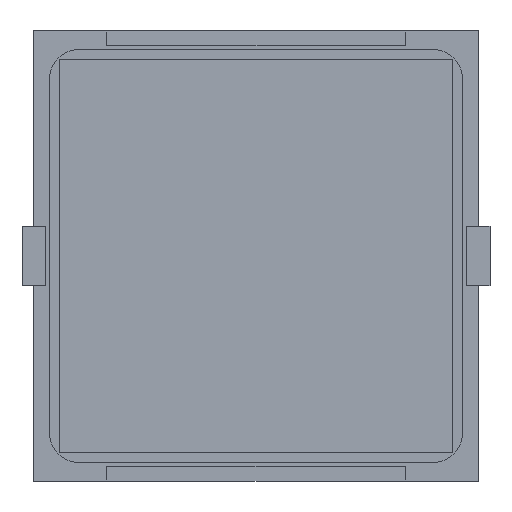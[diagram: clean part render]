
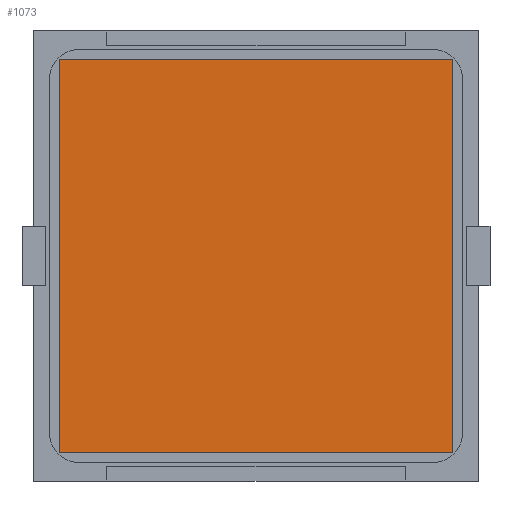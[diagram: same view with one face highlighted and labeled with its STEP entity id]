
A CAD part, front view. The second image highlights one B-rep face of the part: STEP entity #1073.
In plain terms, the highlighted planar face has unit normal (0, -1, 0).
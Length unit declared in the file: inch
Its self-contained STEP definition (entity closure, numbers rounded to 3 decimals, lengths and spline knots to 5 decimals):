
#323 = DIRECTION ( 'NONE',  ( 0., 0., -1. ) ) ;
#356 = PLANE ( 'NONE',  #7579 ) ;
#1073 = ADVANCED_FACE ( 'NONE', ( #10123 ), #356, .F. ) ;
#1463 = DIRECTION ( 'NONE',  ( 0., 0., 1. ) ) ;
#2272 = VECTOR ( 'NONE', #1463, 39.37008 ) ;
#2900 = DIRECTION ( 'NONE',  ( 0., 0., 1. ) ) ;
#3119 = EDGE_CURVE ( 'NONE', #3161, #4794, #10197, .T. ) ;
#3161 = VERTEX_POINT ( 'NONE', #5351 ) ;
#3660 = EDGE_CURVE ( 'NONE', #6611, #6446, #6421, .T. ) ;
#3728 = ORIENTED_EDGE ( 'NONE', *, *, #5587, .F. ) ;
#3869 = DIRECTION ( 'NONE',  ( 1., 0., 0. ) ) ;
#4452 = CARTESIAN_POINT ( 'NONE',  ( -0.64961, -0.005, -0.64961 ) ) ;
#4611 = DIRECTION ( 'NONE',  ( -1., 0., 0. ) ) ;
#4794 = VERTEX_POINT ( 'NONE', #9662 ) ;
#4965 = VECTOR ( 'NONE', #3869, 39.37008 ) ;
#5309 = LINE ( 'NONE', #4452, #9690 ) ;
#5351 = CARTESIAN_POINT ( 'NONE',  ( 0.64961, -0.005, 0.64961 ) ) ;
#5559 = EDGE_LOOP ( 'NONE', ( #8057, #3728, #10334, #8972 ) ) ;
#5587 = EDGE_CURVE ( 'NONE', #4794, #6611, #5309, .T. ) ;
#6065 = DIRECTION ( 'NONE',  ( 0., 1., 0. ) ) ;
#6421 = LINE ( 'NONE', #8119, #2272 ) ;
#6446 = VERTEX_POINT ( 'NONE', #9026 ) ;
#6611 = VERTEX_POINT ( 'NONE', #10479 ) ;
#7031 = VECTOR ( 'NONE', #323, 39.37008 ) ;
#7067 = CARTESIAN_POINT ( 'NONE',  ( -0.64961, -0.005, 0.64961 ) ) ;
#7579 = AXIS2_PLACEMENT_3D ( 'NONE', #8581, #6065, #2900 ) ;
#7696 = CARTESIAN_POINT ( 'NONE',  ( 0.64961, -0.005, -0.64961 ) ) ;
#8057 = ORIENTED_EDGE ( 'NONE', *, *, #3660, .F. ) ;
#8119 = CARTESIAN_POINT ( 'NONE',  ( -0.64961, -0.005, -0.64961 ) ) ;
#8422 = EDGE_CURVE ( 'NONE', #6446, #3161, #9503, .T. ) ;
#8581 = CARTESIAN_POINT ( 'NONE',  ( -0.64961, -0.005, 0.64961 ) ) ;
#8972 = ORIENTED_EDGE ( 'NONE', *, *, #8422, .F. ) ;
#9026 = CARTESIAN_POINT ( 'NONE',  ( -0.64961, -0.005, 0.64961 ) ) ;
#9503 = LINE ( 'NONE', #7067, #4965 ) ;
#9662 = CARTESIAN_POINT ( 'NONE',  ( 0.64961, -0.005, -0.64961 ) ) ;
#9690 = VECTOR ( 'NONE', #4611, 39.37008 ) ;
#10123 = FACE_OUTER_BOUND ( 'NONE', #5559, .T. ) ;
#10197 = LINE ( 'NONE', #7696, #7031 ) ;
#10334 = ORIENTED_EDGE ( 'NONE', *, *, #3119, .F. ) ;
#10479 = CARTESIAN_POINT ( 'NONE',  ( -0.64961, -0.005, -0.64961 ) ) ;
